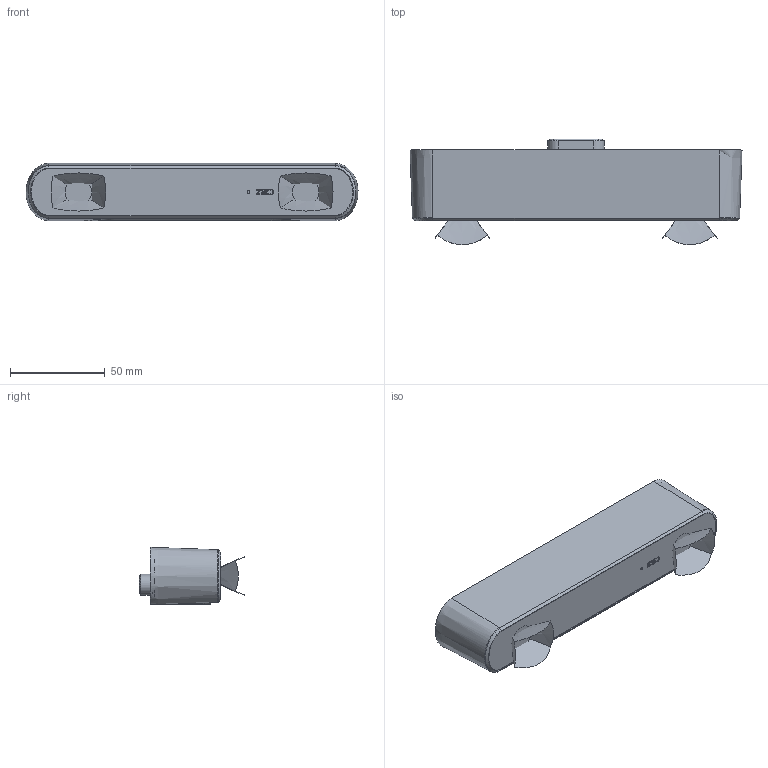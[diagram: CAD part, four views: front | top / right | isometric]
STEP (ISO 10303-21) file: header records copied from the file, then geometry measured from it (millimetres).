
FILE_DESCRIPTION(/* description */ ('STEP AP214','CAx-IF Rec.Pracs.---User Defined Attributes---1.5---2016-08-15'),/* implementation_level */ '2;1');
FILE_NAME(/* name */ '6a297e4f3db40dc11122fd5f',/* time_stamp */ '2026-06-10T15:10:09Z',/* author */ (''),/* organization */ (''),/* preprocessor_version */ 'ST-DEVELOPER v20',/* originating_system */ 'ONSHAPE BY PTC INC, 1.216',/* authorisation */ ' ');
FILE_SCHEMA (('AUTOMOTIVE_DESIGN {1 0 10303 214 3 1 1}'));
Products named in the file (14): ZED 2i Narrow; Front case - ZED 2i; Rear case - ZED 2i; Camera Component - Body - ZED 2i - 4.6mm - Cover; Board & connector ZED 2i <1>; USB Type C Port; Board (1) <1>; Right Lens Holder; Narrow lens <2>; DSL958R-650-F2.0 -光锥图; Narrow lens 4.6mm; Narrow lens <1>; PCB ZED2i
Assembly tree (17 placements, depth 5):
  ZED 2i Narrow
    Front case - ZED 2i
    Rear case - ZED 2i
    Camera Component - Body - ZED 2i - 4.6mm - Cover
    Board & connector ZED 2i <1>
      USB Type C Port
      Board (1) <1>
        Right Lens Holder  x2
        Narrow lens <2>
          DSL958R-650-F2.0 -光锥图
          DSL958R-650-F2.0 -光锥图
          Narrow lens 4.6mm
        Narrow lens <1>
          Narrow lens 4.6mm
          DSL958R-650-F2.0 -光锥图
          DSL958R-650-F2.0 -光锥图
        PCB ZED2i
Bounding box: 175.22 x 55.71 x 30.25 mm (x, y, z)
Volume: 85296.1 mm3; surface area: 81161.6 mm2
Topology: 9 solids, 15 shells, 1767 faces, 4671 edges, 3059 vertices
Faces by surface type: plane 1074, cylinder 454, bspline 172, cone 39, torus 24, sphere 4
Full cylindrical faces by diameter (mm): 1.5 x7, 1.6 x4, 1.778 x2, 2 x6, 2.2 x4, 2.5 x3, 2.529 x6, 2.58 x1, 2.8 x4, 3.3 x3, 3.9 x6, 3.98 x1, 4.5 x4, 4.651 x3, 5 x1, 5.116 x1, 6.182 x3, 10 x2, 12 x4, 14 x6, 14.5 x2, 18.8 x2
Entity records: 61916 total; most frequent: CARTESIAN_POINT 19444, ORIENTED_EDGE 8833, DIRECTION 8060, EDGE_CURVE 4421, LINE 3028, VECTOR 3028, VERTEX_POINT 2956, AXIS2_PLACEMENT_3D 2516
